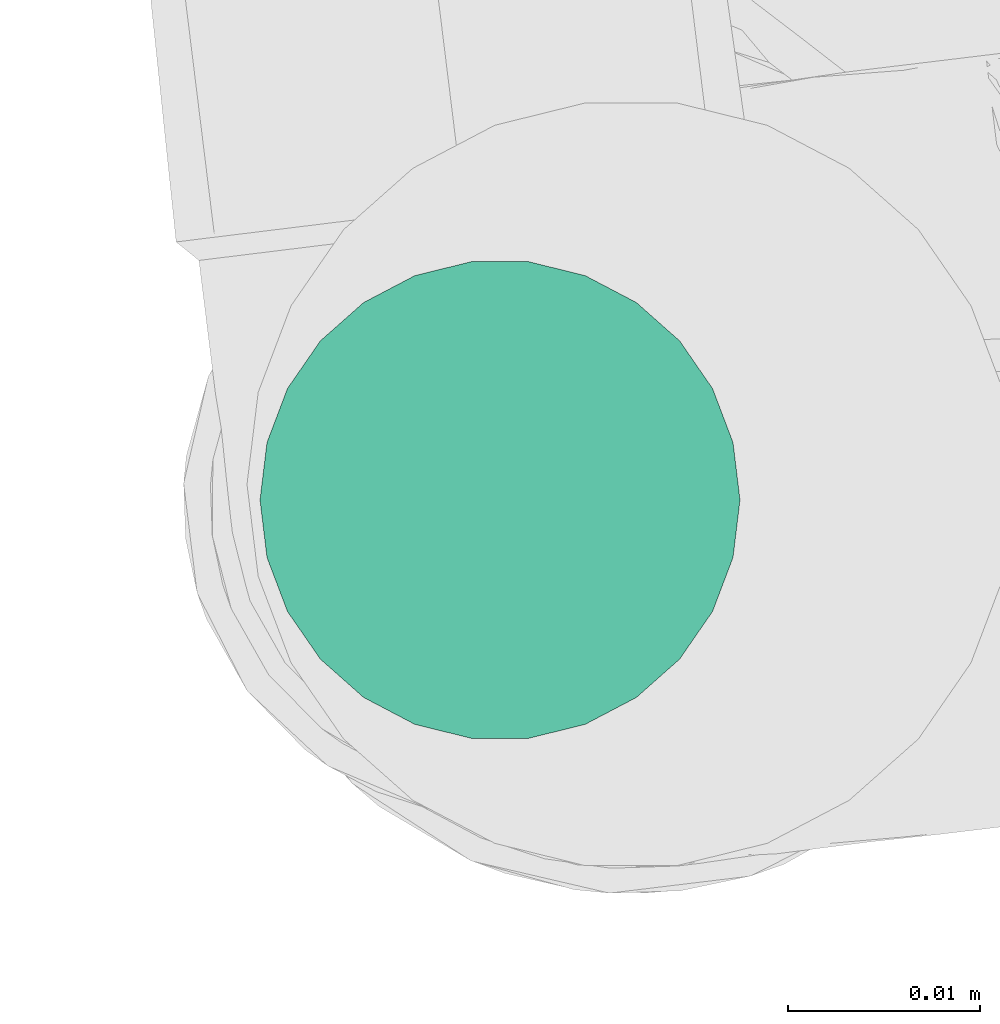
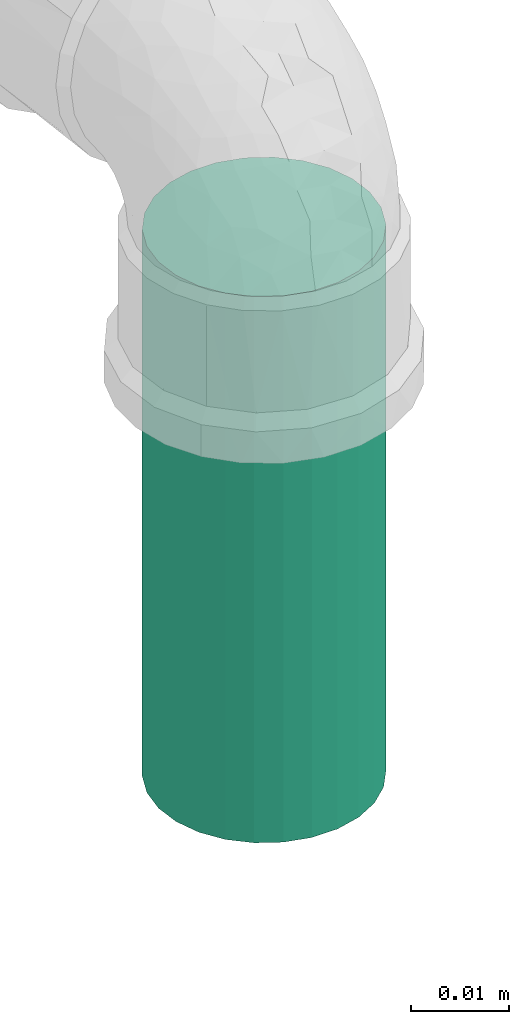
# One storey, part 68 of 97: 1 flow segment.
"""IFC2X3 building model written with IfcOpenShell, lengths in centimetres."""

from ifc_helpers import new_model, entity, si_unit, converted_unit, derived_unit, direction, frame, origin, origin_2d_with_axis, place, context, subcontext, project, spatial, circle, extrude, type_object, element, save


model = new_model("IFC2X3")

# Units and contexts
model_context = context("Model", 3, precision=0.001, world=origin(), true_north=direction((6.12303176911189e-17, 1.0)))
body_context = subcontext(model_context, "Body", "Model", "MODEL_VIEW")
ifc_project = project(units=[si_unit("LENGTHUNIT", "METRE", prefix="CENTI"), si_unit("AREAUNIT", "SQUARE_METRE"), si_unit("VOLUMEUNIT", "CUBIC_METRE"), converted_unit("PLANEANGLEUNIT", "DEGREE", entity("IfcRatioMeasure", 0.0174532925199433), si_unit("PLANEANGLEUNIT", "RADIAN"), dimensions=[0, 0, 0, 0, 0, 0, 0]), si_unit("MASSUNIT", "GRAM", prefix="KILO"), derived_unit("MASSDENSITYUNIT", [(si_unit("MASSUNIT", "GRAM", prefix="KILO"), 1), (si_unit("LENGTHUNIT", "METRE"), -3)]), derived_unit("MOMENTOFINERTIAUNIT", [(si_unit("LENGTHUNIT", "METRE"), 4)]), si_unit("TIMEUNIT", "SECOND"), si_unit("FREQUENCYUNIT", "HERTZ"), si_unit("THERMODYNAMICTEMPERATUREUNIT", "DEGREE_CELSIUS"), derived_unit("THERMALTRANSMITTANCEUNIT", [(si_unit("MASSUNIT", "GRAM", prefix="KILO"), 1), (si_unit("THERMODYNAMICTEMPERATUREUNIT", "KELVIN"), -1), (si_unit("TIMEUNIT", "SECOND"), -3)]), derived_unit("VOLUMETRICFLOWRATEUNIT", [(si_unit("LENGTHUNIT", "METRE"), 3), (si_unit("TIMEUNIT", "SECOND"), -1)]), si_unit("ELECTRICCURRENTUNIT", "AMPERE"), si_unit("ELECTRICVOLTAGEUNIT", "VOLT"), si_unit("POWERUNIT", "WATT"), si_unit("FORCEUNIT", "NEWTON", prefix="KILO"), si_unit("ILLUMINANCEUNIT", "LUX"), si_unit("LUMINOUSFLUXUNIT", "LUMEN"), si_unit("LUMINOUSINTENSITYUNIT", "CANDELA"), derived_unit("USERDEFINED", [(si_unit("MASSUNIT", "GRAM", prefix="KILO"), -1), (si_unit("LENGTHUNIT", "METRE"), -2), (si_unit("TIMEUNIT", "SECOND"), 3), (si_unit("LUMINOUSFLUXUNIT", "LUMEN"), 1)]), derived_unit("LINEARVELOCITYUNIT", [(si_unit("LENGTHUNIT", "METRE"), 1), (si_unit("TIMEUNIT", "SECOND"), -1)]), si_unit("PRESSUREUNIT", "PASCAL"), derived_unit("USERDEFINED", [(si_unit("LENGTHUNIT", "METRE"), -2), (si_unit("MASSUNIT", "GRAM", prefix="KILO"), 1), (si_unit("TIMEUNIT", "SECOND"), -2)]), derived_unit("LINEARFORCEUNIT", [(si_unit("MASSUNIT", "GRAM", prefix="KILO"), 1), (si_unit("LENGTHUNIT", "METRE"), 1), (si_unit("TIMEUNIT", "SECOND"), -2), (si_unit("LENGTHUNIT", "METRE"), -1)]), derived_unit("PLANARFORCEUNIT", [(si_unit("MASSUNIT", "GRAM", prefix="KILO"), 1), (si_unit("LENGTHUNIT", "METRE"), 1), (si_unit("TIMEUNIT", "SECOND"), -2), (si_unit("LENGTHUNIT", "METRE"), -2)])], contexts=[model_context])

# Site, building, storey
site_placement = place(None, origin())
site = spatial("IfcSite", under=ifc_project, at=site_placement, Name="Default", CompositionType="ELEMENT")
building_placement = place(site_placement, origin())
building = spatial("IfcBuilding", under=site, at=building_placement, Name="HIDROSSANITÁRIO", CompositionType="ELEMENT")
storey_placement = place(building_placement, frame((0.0, 0.0, -260.0)))
storey = spatial("IfcBuildingStorey", under=building, at=storey_placement, Name="TÉRREO-HID", CompositionType="ELEMENT", Elevation=-260.0)

# Flow segment
pipe_segment_type = type_object("IfcPipeSegmentType", Name="Tipos de tubos:Tubo Marrom - Água Fria - Soldável", PredefinedType="NOTDEFINED")
flow_segment_placement = place(storey_placement, origin())
element("IfcFlowSegment", 1, at=flow_segment_placement, inside=storey, type_object=pipe_segment_type, Name="Tipos de tubos:Tubo Marrom - Água Fria - Soldável", ObjectType="Tipos de tubos:Tubo Marrom - Água Fria - Soldável", context=body_context, shape_type="SweptSolid", body=[
    extrude(circle(Radius=1.25, at=origin_2d_with_axis()), frame((-1669.31581232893, 2740.5486218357, 61.63), z_axis=(0.0, 0.0, 1.0), x_axis=(-1.0, 0.0, 0.0)), (0.0, 0.0, 1.0), 6.83000000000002),
])

save(model, "model.ifc")
